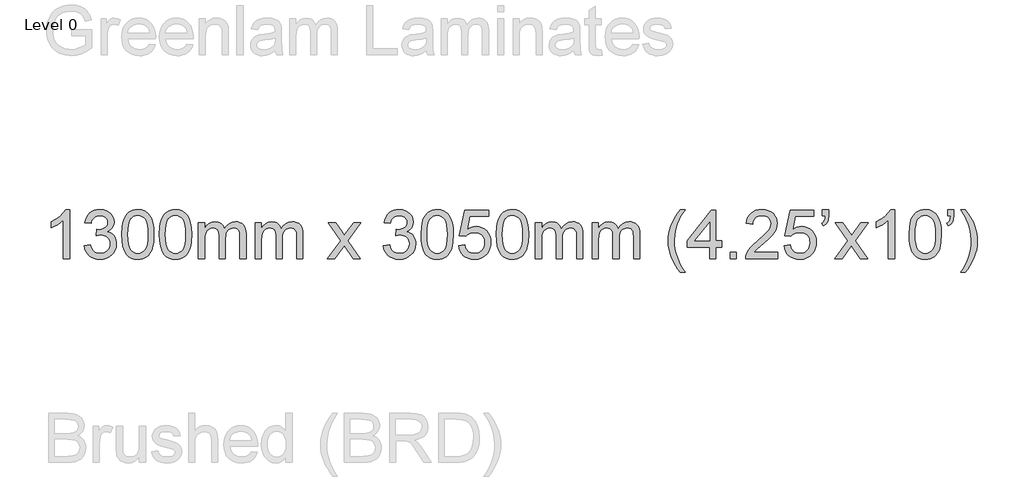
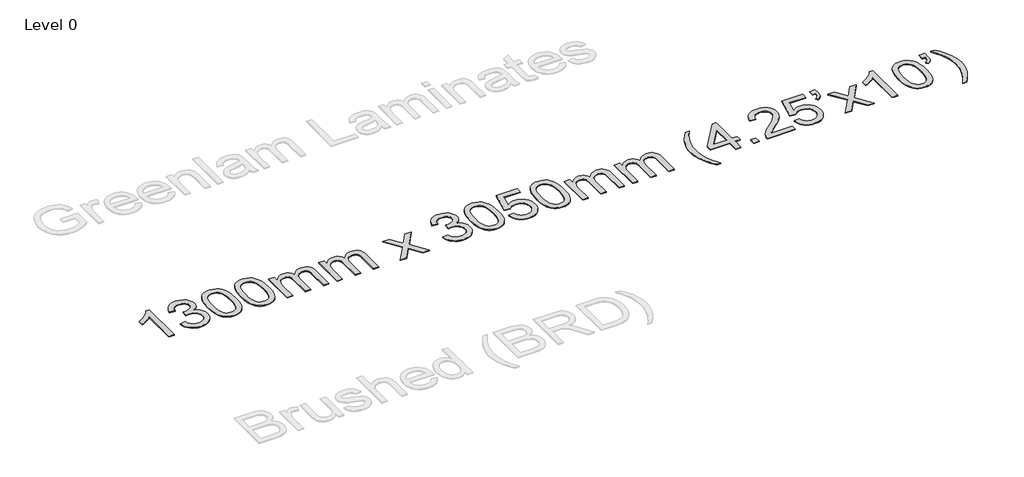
# One storey, part 2 of 3: 1 proxy.
"""IFC4 building model written with IfcOpenShell, lengths in millimetres."""

from ifc_helpers import new_model, si_unit, origin, origin_with_axes, place, context, project, spatial, polyline, outline, extrude, element, save

model = new_model("IFC4")

# Units and contexts
model_context = context("Model", 3, world=origin())
ifc_project = project(units=[si_unit("LENGTHUNIT", "METRE", prefix="MILLI")], contexts=[model_context])

# Site, building, storey
site = spatial("IfcSite", under=ifc_project)
building = spatial("IfcBuilding", under=site)
storey = spatial("IfcBuildingStorey", under=building, Name="Level 0", Elevation=0.0)

# Proxy
placement = place(None, origin())
element("IfcBuildingElementProxy", 1, Name="600mm Arial", ObjectType="600mm Arial", at=placement, inside=storey, context=model_context, shape_type="SweptSolid", body=[
    extrude(outline(polyline([(-10623.1831502, 260.1279527), (-10698.5253828, 260.1279527), (-10698.5253828, 729.8396841), (-10729.9792934, 704.4006441), (-10769.8944899, 678.9983924), (-10811.7962491, 656.796714), (-10849.209848, 640.9593941), (-10849.209848, 712.1813483), (-10790.0360291, 744.3710229), (-10738.7716731, 782.6675386), (-10698.3598359, 823.3920755), (-10671.7435735, 862.8658136), (-10623.1831502, 862.8658136), (-10623.1831502, 260.1279527)])), origin_with_axes(), (0.0, 0.0, 1.0), 10.0),
    extrude(outline(polyline([(-10444.2453477, 420.230197), (-10368.9031151, 429.647976), (-10352.0357256, 382.3015633), (-10340.6635735, 364.3949072), (-10327.3324497, 350.3326179), (-10311.7388516, 339.7100253), (-10293.5792766, 332.1224591), (-10272.8537247, 327.5699194), (-10249.5621959, 326.0524062), (-10222.2653518, 328.1401365), (-10197.9115638, 334.4033275), (-10176.5008316, 344.8419791), (-10158.0331555, 359.4560914), (-10143.1615258, 377.1512153), (-10132.5389332, 396.8329021), (-10126.1653776, 418.5011516), (-10124.0408591, 442.1559639), (-10126.1469835, 464.6841376), (-10132.4653568, 485.1797632), (-10142.9959789, 503.6428409), (-10157.7388499, 520.0733705), (-10175.7282794, 533.5608441), (-10195.9985774, 543.1947539), (-10218.5497437, 548.9750997), (-10243.3817784, 550.9018817), (-10267.1837434, 548.8417425), (-10296.2096329, 542.661325), (-10287.8219234, 618.0035576), (-10275.7553939, 617.1206408), (-10230.6162731, 622.5285061), (-10190.2596183, 638.7521021), (-10173.6497462, 651.0209666), (-10161.7855518, 666.1960989), (-10154.6670352, 684.277499), (-10152.2941963, 705.2651668), (-10154.0140447, 722.3027017), (-10159.1735897, 737.8043293), (-10167.7728313, 751.7700496), (-10179.8117696, 764.1998625), (-10194.5638376, 774.4039893), (-10211.3024684, 781.6926513), (-10250.7394183, 787.523581), (-10271.3959923, 786.052053), (-10290.2499445, 781.637469), (-10307.301275, 774.2798291), (-10322.5499837, 763.9791333), (-10335.6189916, 750.7353814), (-10346.1312196, 734.5485737), (-10354.0866678, 715.4187099), (-10359.485336, 693.3457902), (-10434.8275686, 702.7635693), (-10425.8972332, 738.7332313), (-10412.6442843, 770.4170682), (-10395.068722, 797.8150798), (-10373.1705463, 820.9272661), (-10347.6395358, 839.2753806), (-10319.1654694, 852.3811767), (-10287.748347, 860.2446544), (-10253.3881686, 862.8658136), (-10206.0233617, 857.6970715), (-10162.5213158, 842.1908454), (-10125.8434809, 817.7266928), (-10098.951307, 785.684171), (-10082.4517996, 748.7672128), (-10076.9519637, 709.6797508), (-10082.1758881, 673.2594333), (-10097.8476611, 640.2236301), (-10123.7465535, 612.0806575), (-10159.6518363, 590.3388315), (-10134.5438901, 582.4845509), (-10112.4893645, 571.2825442), (-10093.4882594, 556.7328113), (-10077.5405749, 538.8353522), (-10064.9222225, 518.0316254), (-10055.9091136, 494.7630892), (-10050.5012483, 469.0297436), (-10048.6986265, 440.8315887), (-10052.3038701, 402.6086494), (-10063.1196007, 367.4023425), (-10081.1458185, 335.2126679), (-10106.3825234, 306.0396257), (-10137.1282611, 281.8329904), (-10171.6815775, 264.5425366), (-10210.0424725, 254.1682643), (-10252.2109462, 250.7101736), (-10290.3235209, 253.6624266), (-10325.0515813, 262.5191856), (-10356.3951273, 277.2804507), (-10384.3541589, 297.9462218), (-10407.797439, 323.3024883), (-10425.5937306, 352.1352397), (-10437.7430335, 384.4444759), (-10444.2453477, 420.230197)])), origin_with_axes(), (0.0, 0.0, 1.0), 10.0),
    extrude(outline(polyline([(-9982.774173, 556.6408408), (-9977.2375489, 653.117894), (-9970.3167689, 694.0309704), (-9960.6276769, 730.0604133), (-9948.2116595, 761.5005283), (-9933.1101036, 788.645621), (-9915.3230092, 811.4956915), (-9894.8503761, 830.0507396), (-9871.6232267, 844.4073345), (-9845.5725829, 854.6620451), (-9816.6984448, 860.8148714), (-9785.0008124, 862.8658136), (-9738.5741046, 858.0097712), (-9697.0034391, 843.4416442), (-9662.2385906, 819.7316496), (-9636.2293335, 787.4500046), (-9616.584435, 746.8726205), (-9600.912662, 698.2754089), (-9590.6487543, 636.5632042), (-9587.2274518, 556.6408408), (-9592.7088935, 460.7156105), (-9599.5606956, 419.9404899), (-9609.1532187, 383.9570322), (-9621.472667, 352.5031217), (-9636.505245, 325.3166422), (-9654.2509528, 302.3975939), (-9674.7097902, 283.7459768), (-9697.9645308, 269.2928129), (-9724.0979481, 258.9691244), (-9753.1100419, 252.7749113), (-9785.0008124, 250.7101736), (-9826.4979014, 254.297023), (-9863.2861009, 265.0575714), (-9895.3654109, 282.9918187), (-9922.7358314, 308.0997648), (-9949.0026058, 353.487206), (-9967.7645876, 410.0398657), (-9979.0217766, 477.757744), (-9982.774173, 556.6408408)]), holes=[polyline([(-9907.4319404, 556.7879936), (-9905.2246484, 491.2912029), (-9898.6027725, 438.2748088), (-9887.5663126, 397.7388115), (-9872.1152688, 369.6832108), (-9853.4268635, 350.5947338), (-9832.6783189, 336.9601074), (-9809.8696352, 328.7793315), (-9785.0008124, 326.0524062), (-9760.1319895, 328.7885285), (-9737.3233058, 336.9968956), (-9716.5747613, 350.6775073), (-9697.8863559, 369.8303636), (-9682.4353121, 397.9319495), (-9671.3988523, 438.4587498), (-9664.7769763, 491.4107645), (-9662.5696844, 556.7879936), (-9664.7033999, 620.5511404), (-9671.1045467, 672.6340339), (-9681.7731245, 713.036674), (-9696.7091335, 741.7590608), (-9715.0848392, 761.7810383), (-9736.072507, 776.0824509), (-9759.672137, 784.6632984), (-9785.8837292, 787.523581), (-9810.6237933, 785.0035893), (-9833.0462009, 777.4436143), (-9853.150952, 764.843656), (-9870.9380464, 747.2037143), (-9886.904125, 715.9337447), (-9898.3084669, 673.774468), (-9905.151072, 620.7258843), (-9907.4319404, 556.7879936)])]), origin_with_axes(), (0.0, 0.0, 1.0), 10.0),
    extrude(outline(polyline([(-9521.3029982, 556.6408408), (-9515.7663742, 653.117894), (-9508.8455942, 694.0309704), (-9499.1565021, 730.0604133), (-9486.7404848, 761.5005283), (-9471.6389289, 788.645621), (-9453.8518344, 811.4956915), (-9433.3792014, 830.0507396), (-9410.1520519, 844.4073345), (-9384.1014081, 854.6620451), (-9355.22727, 860.8148714), (-9323.5296376, 862.8658136), (-9277.1029298, 858.0097712), (-9235.5322644, 843.4416442), (-9200.7674158, 819.7316496), (-9174.7581588, 787.4500046), (-9155.1132602, 746.8726205), (-9139.4414872, 698.2754089), (-9129.1775796, 636.5632042), (-9125.756277, 556.6408408), (-9131.2377187, 460.7156105), (-9138.0895209, 419.9404899), (-9147.6820439, 383.9570322), (-9160.0014922, 352.5031217), (-9175.0340703, 325.3166422), (-9192.779778, 302.3975939), (-9213.2386155, 283.7459768), (-9236.4933561, 269.2928129), (-9262.6267733, 258.9691244), (-9291.6388672, 252.7749113), (-9323.5296376, 250.7101736), (-9365.0267267, 254.297023), (-9401.8149262, 265.0575714), (-9433.8942362, 282.9918187), (-9461.2646566, 308.0997648), (-9487.5314311, 353.487206), (-9506.2934128, 410.0398657), (-9517.5506019, 477.757744), (-9521.3029982, 556.6408408)]), holes=[polyline([(-9445.9607656, 556.7879936), (-9443.7534736, 491.2912029), (-9437.1315977, 438.2748088), (-9426.0951379, 397.7388115), (-9410.6440941, 369.6832108), (-9391.9556887, 350.5947338), (-9371.2071442, 336.9601074), (-9348.3984605, 328.7793315), (-9323.5296376, 326.0524062), (-9298.6608147, 328.7885285), (-9275.852131, 336.9968956), (-9255.1035865, 350.6775073), (-9236.4151812, 369.8303636), (-9220.9641374, 397.9319495), (-9209.9276775, 438.4587498), (-9203.3058016, 491.4107645), (-9201.0985096, 556.7879936), (-9203.2322252, 620.5511404), (-9209.6333719, 672.6340339), (-9220.3019498, 713.036674), (-9235.2379588, 741.7590608), (-9253.6136644, 761.7810383), (-9274.6013323, 776.0824509), (-9298.2009622, 784.6632984), (-9324.4125544, 787.523581), (-9349.1526186, 785.0035893), (-9371.5750262, 777.4436143), (-9391.6797772, 764.843656), (-9409.4668717, 747.2037143), (-9425.4329503, 715.9337447), (-9436.8372921, 673.774468), (-9443.6798972, 620.7258843), (-9445.9607656, 556.7879936)])]), origin_with_axes(), (0.0, 0.0, 1.0), 10.0),
    extrude(outline(polyline([(-9040.9962653, 260.1279527), (-9040.9962653, 702.7635693), (-8965.6540327, 702.7635693), (-8965.6540327, 629.9229342), (-8942.9925018, 663.3818017), (-8913.8562478, 689.5933938), (-8879.238552, 706.5343597), (-8840.132696, 712.1813483), (-8798.2309367, 706.4239951), (-8780.397857, 699.2273036), (-8764.6433105, 689.1519354), (-8739.5537585, 661.5056035), (-8723.1462215, 624.6254335), (-8695.6838305, 662.9311462), (-8664.3586787, 690.2923696), (-8629.1707658, 706.7091037), (-8590.120092, 712.1813483), (-8559.958367, 709.9050785), (-8533.4846589, 703.076269), (-8510.6989678, 691.6949197), (-8491.6012937, 675.7610308), (-8476.5043363, 655.0906612), (-8465.7207954, 629.4998699), (-8459.2506708, 598.988657), (-8457.0939626, 563.5570223), (-8457.0939626, 260.1279527), (-8532.4361952, 260.1279527), (-8532.4361952, 531.1834067), (-8534.1836347, 568.7625525), (-8539.4259531, 594.0912279), (-8549.2484024, 611.436864), (-8564.7362344, 625.0668919), (-8584.6570444, 633.8960598), (-8607.7784278, 636.8391157), (-8629.1293791, 634.9537205), (-8648.5949352, 629.2975348), (-8666.175096, 619.8705587), (-8681.8698616, 606.6727921), (-8694.7779211, 589.317959), (-8703.9979636, 567.4197832), (-8709.5299891, 540.9782648), (-8711.3739976, 509.9934038), (-8711.3739976, 260.1279527), (-8786.7162303, 260.1279527), (-8786.7162303, 539.5711162), (-8791.0756319, 582.1718512), (-8796.5248839, 598.8920879), (-8804.1538368, 612.5589041), (-8814.2659932, 623.1814967), (-8827.1648556, 630.7690628), (-8842.8504242, 635.3216025), (-8861.3226989, 636.8391157), (-8890.3485883, 632.7924138), (-8917.0936093, 620.6523079), (-8939.1665291, 600.7131038), (-8954.1761145, 573.269107), (-8962.7845531, 535.1933205), (-8965.6540327, 483.3587473), (-8965.6540327, 260.1279527), (-9040.9962653, 260.1279527)])), origin_with_axes(), (0.0, 0.0, 1.0), 10.0),
    extrude(outline(polyline([(-8344.0806137, 260.1279527), (-8344.0806137, 702.7635693), (-8268.738381, 702.7635693), (-8268.738381, 629.9229342), (-8246.0768501, 663.3818017), (-8216.9405961, 689.5933938), (-8182.3229004, 706.5343597), (-8143.2170443, 712.1813483), (-8101.315285, 706.4239951), (-8083.4822053, 699.2273036), (-8067.7276589, 689.1519354), (-8042.6381068, 661.5056035), (-8026.2305698, 624.6254335), (-7998.7681789, 662.9311462), (-7967.443027, 690.2923696), (-7932.2551142, 706.7091037), (-7893.2044404, 712.1813483), (-7863.0427153, 709.9050785), (-7836.5690072, 703.076269), (-7813.7833161, 691.6949197), (-7794.6856421, 675.7610308), (-7779.5886847, 655.0906612), (-7768.8051437, 629.4998699), (-7762.3350191, 598.988657), (-7760.1783109, 563.5570223), (-7760.1783109, 260.1279527), (-7835.5205435, 260.1279527), (-7835.5205435, 531.1834067), (-7837.267983, 568.7625525), (-7842.5103014, 594.0912279), (-7852.3327507, 611.436864), (-7867.8205827, 625.0668919), (-7887.7413927, 633.8960598), (-7910.8627761, 636.8391157), (-7932.2137274, 634.9537205), (-7951.6792835, 629.2975348), (-7969.2594443, 619.8705587), (-7984.95421, 606.6727921), (-7997.8622695, 589.317959), (-8007.082312, 567.4197832), (-8012.6143375, 540.9782648), (-8014.458346, 509.9934038), (-8014.458346, 260.1279527), (-8089.8005786, 260.1279527), (-8089.8005786, 539.5711162), (-8094.1599802, 582.1718512), (-8099.6092323, 598.8920879), (-8107.2381852, 612.5589041), (-8117.3503415, 623.1814967), (-8130.249204, 630.7690628), (-8145.9347725, 635.3216025), (-8164.4070472, 636.8391157), (-8193.4329366, 632.7924138), (-8220.1779577, 620.6523079), (-8242.2508774, 600.7131038), (-8257.2604628, 573.269107), (-8265.8689015, 535.1933205), (-8268.738381, 483.3587473), (-8268.738381, 260.1279527), (-8344.0806137, 260.1279527)])), origin_with_axes(), (0.0, 0.0, 1.0), 10.0),
    extrude(outline(polyline([(-7458.8093805, 260.1279527), (-7297.8242194, 482.6229834), (-7449.3916014, 702.7635693), (-7358.7454778, 702.7635693), (-7285.6105371, 596.8135547), (-7251.471088, 546.7816033), (-7221.8933756, 587.6900812), (-7138.6048919, 702.7635693), (-7047.9587682, 702.7635693), (-7207.1780958, 482.6229834), (-7053.8448802, 260.1279527), (-7144.4910038, 260.1279527), (-7236.7558082, 393.8898461), (-7253.67838, 418.3172106), (-7368.1632569, 260.1279527), (-7458.8093805, 260.1279527)])), origin_with_axes(), (0.0, 0.0, 1.0), 10.0),
    extrude(outline(polyline([(-6771.3115079, 420.230197), (-6695.9692753, 429.647976), (-6679.1018858, 382.3015633), (-6667.7297336, 364.3949072), (-6654.3986098, 350.3326179), (-6638.8050117, 339.7100253), (-6620.6454368, 332.1224591), (-6599.9198848, 327.5699194), (-6576.628356, 326.0524062), (-6549.331512, 328.1401365), (-6524.9777239, 334.4033275), (-6503.5669918, 344.8419791), (-6485.0993156, 359.4560914), (-6470.227686, 377.1512153), (-6459.6050934, 396.8329021), (-6453.2315378, 418.5011516), (-6451.1070193, 442.1559639), (-6453.2131437, 464.6841376), (-6459.531517, 485.1797632), (-6470.0621391, 503.6428409), (-6484.80501, 520.0733705), (-6502.7944396, 533.5608441), (-6523.0647375, 543.1947539), (-6545.6159038, 548.9750997), (-6570.4479385, 550.9018817), (-6594.2499036, 548.8417425), (-6623.275793, 542.661325), (-6614.8880835, 618.0035576), (-6602.8215541, 617.1206408), (-6557.6824333, 622.5285061), (-6517.3257784, 638.7521021), (-6500.7159063, 651.0209666), (-6488.851712, 666.1960989), (-6481.7331954, 684.277499), (-6479.3603565, 705.2651668), (-6481.0802048, 722.3027017), (-6486.2397498, 737.8043293), (-6494.8389915, 751.7700496), (-6506.8779297, 764.1998625), (-6521.6299977, 774.4039893), (-6538.3686285, 781.6926513), (-6577.8055784, 787.523581), (-6598.4621524, 786.052053), (-6617.3161047, 781.637469), (-6634.3674352, 774.2798291), (-6649.6161439, 763.9791333), (-6662.6851517, 750.7353814), (-6673.1973798, 734.5485737), (-6681.1528279, 715.4187099), (-6686.5514962, 693.3457902), (-6761.8937288, 702.7635693), (-6752.9633934, 738.7332313), (-6739.7104445, 770.4170682), (-6722.1348822, 797.8150798), (-6700.2367064, 820.9272661), (-6674.7056959, 839.2753806), (-6646.2316295, 852.3811767), (-6614.8145071, 860.2446544), (-6580.4543288, 862.8658136), (-6533.0895219, 857.6970715), (-6489.587476, 842.1908454), (-6452.9096411, 817.7266928), (-6426.0174672, 785.684171), (-6409.5179597, 748.7672128), (-6404.0181239, 709.6797508), (-6409.2420482, 673.2594333), (-6424.9138212, 640.2236301), (-6450.8127137, 612.0806575), (-6486.7179964, 590.3388315), (-6461.6100502, 582.4845509), (-6439.5555246, 571.2825442), (-6420.5544196, 556.7328113), (-6404.6067351, 538.8353522), (-6391.9883826, 518.0316254), (-6382.9752738, 494.7630892), (-6377.5674084, 469.0297436), (-6375.7647867, 440.8315887), (-6379.3700302, 402.6086494), (-6390.1857609, 367.4023425), (-6408.2119786, 335.2126679), (-6433.4486835, 306.0396257), (-6464.1944213, 281.8329904), (-6498.7477376, 264.5425366), (-6537.1086327, 254.1682643), (-6579.2771064, 250.7101736), (-6617.3896811, 253.6624266), (-6652.1177414, 262.5191856), (-6683.4612874, 277.2804507), (-6711.4203191, 297.9462218), (-6734.8635992, 323.3024883), (-6752.6598907, 352.1352397), (-6764.8091936, 384.4444759), (-6771.3115079, 420.230197)])), origin_with_axes(), (0.0, 0.0, 1.0), 10.0),
    extrude(outline(polyline([(-6309.8403331, 556.6408408), (-6304.3037091, 653.117894), (-6297.3829291, 694.0309704), (-6287.693837, 730.0604133), (-6275.2778197, 761.5005283), (-6260.1762638, 788.645621), (-6242.3891693, 811.4956915), (-6221.9165363, 830.0507396), (-6198.6893868, 844.4073345), (-6172.638743, 854.6620451), (-6143.7646049, 860.8148714), (-6112.0669725, 862.8658136), (-6065.6402647, 858.0097712), (-6024.0695993, 843.4416442), (-5989.3047507, 819.7316496), (-5963.2954937, 787.4500046), (-5943.6505951, 746.8726205), (-5927.9788221, 698.2754089), (-5917.7149145, 636.5632042), (-5914.2936119, 556.6408408), (-5919.7750536, 460.7156105), (-5926.6268558, 419.9404899), (-5936.2193788, 383.9570322), (-5948.5388271, 352.5031217), (-5963.5714052, 325.3166422), (-5981.3171129, 302.3975939), (-6001.7759504, 283.7459768), (-6025.030691, 269.2928129), (-6051.1641082, 258.9691244), (-6080.1762021, 252.7749113), (-6112.0669725, 250.7101736), (-6153.5640616, 254.297023), (-6190.3522611, 265.0575714), (-6222.4315711, 282.9918187), (-6249.8019915, 308.0997648), (-6276.068766, 353.487206), (-6294.8307477, 410.0398657), (-6306.0879368, 477.757744), (-6309.8403331, 556.6408408)]), holes=[polyline([(-6234.4981005, 556.7879936), (-6232.2908085, 491.2912029), (-6225.6689326, 438.2748088), (-6214.6324728, 397.7388115), (-6199.181429, 369.6832108), (-6180.4930236, 350.5947338), (-6159.7444791, 336.9601074), (-6136.9357954, 328.7793315), (-6112.0669725, 326.0524062), (-6087.1981496, 328.7885285), (-6064.3894659, 336.9968956), (-6043.6409214, 350.6775073), (-6024.9525161, 369.8303636), (-6009.5014723, 397.9319495), (-5998.4650124, 438.4587498), (-5991.8431365, 491.4107645), (-5989.6358445, 556.7879936), (-5991.7695601, 620.5511404), (-5998.1707068, 672.6340339), (-6008.8392847, 713.036674), (-6023.7752937, 741.7590608), (-6042.1509993, 761.7810383), (-6063.1386672, 776.0824509), (-6086.7382972, 784.6632984), (-6112.9498893, 787.523581), (-6137.6899535, 785.0035893), (-6160.1123611, 777.4436143), (-6180.2171121, 764.843656), (-6198.0042066, 747.2037143), (-6213.9702852, 715.9337447), (-6225.374627, 673.774468), (-6232.2172321, 620.7258843), (-6234.4981005, 556.7879936)])]), origin_with_axes(), (0.0, 0.0, 1.0), 10.0),
    extrude(outline(polyline([(-5848.3691584, 420.230197), (-5773.0269258, 429.647976), (-5767.3983312, 405.4275452), (-5759.1945627, 384.4168847), (-5748.4156203, 366.6159947), (-5735.0615039, 352.0248751), (-5719.1598046, 340.6619199), (-5700.7381137, 332.5455234), (-5679.7964311, 327.6756855), (-5656.3347569, 326.0524062), (-5627.6399613, 328.310282), (-5602.32968, 335.0839092), (-5580.4039131, 346.3732879), (-5561.8626605, 362.1784181), (-5547.1197896, 381.7175506), (-5536.5891675, 404.2089361), (-5530.2707942, 429.6525746), (-5528.1646698, 458.0484661), (-5530.137437, 484.8854576), (-5536.0557386, 508.742605), (-5545.9195746, 529.6199082), (-5559.728945, 547.5173673), (-5577.529835, 561.8739622), (-5599.3682299, 572.1286728), (-5625.2441298, 578.2814991), (-5655.1575345, 580.3324413), (-5691.7066107, 577.0582915), (-5721.3027172, 567.2358422), (-5744.9391354, 552.1894686), (-5763.6091467, 533.2435459), (-5838.9513793, 542.661325), (-5773.0269258, 853.4480345), (-5481.0757744, 853.4480345), (-5481.0757744, 778.1058019), (-5712.1056674, 778.1058019), (-5744.3321301, 612.1174457), (-5717.7434589, 631.173733), (-5690.5109942, 644.7853668), (-5662.6347361, 652.9523471), (-5634.1146844, 655.6746739), (-5597.4230539, 652.2993566), (-5563.7204646, 642.1734047), (-5533.0069165, 625.2968181), (-5505.2824097, 601.669597), (-5482.3311717, 572.7356781), (-5465.9374303, 539.9389982), (-5456.1011854, 503.2795574), (-5452.8224372, 462.7573556), (-5455.7746902, 423.7250759), (-5464.6314492, 387.415123), (-5479.3927143, 353.8274968), (-5500.0584853, 322.9621974), (-5531.3652431, 291.351937), (-5567.8959253, 268.7731796), (-5609.6505317, 255.2259251), (-5656.6290625, 250.7101736), (-5695.5095909, 253.6118428), (-5730.6285258, 262.3168505), (-5761.9858674, 276.8251967), (-5789.5816155, 297.1368814), (-5812.5420506, 322.240229), (-5829.9934527, 351.1235642), (-5841.935822, 383.7868868), (-5848.3691584, 420.230197)])), origin_with_axes(), (0.0, 0.0, 1.0), 10.0),
    extrude(outline(polyline([(-5386.8979836, 556.6408408), (-5381.3613596, 653.117894), (-5374.4405796, 694.0309704), (-5364.7514875, 730.0604133), (-5352.3354702, 761.5005283), (-5337.2339143, 788.645621), (-5319.4468198, 811.4956915), (-5298.9741868, 830.0507396), (-5275.7470373, 844.4073345), (-5249.6963935, 854.6620451), (-5220.8222554, 860.8148714), (-5189.124623, 862.8658136), (-5142.6979152, 858.0097712), (-5101.1272498, 843.4416442), (-5066.3624012, 819.7316496), (-5040.3531442, 787.4500046), (-5020.7082456, 746.8726205), (-5005.0364726, 698.2754089), (-4994.772565, 636.5632042), (-4991.3512624, 556.6408408), (-4996.8327041, 460.7156105), (-5003.6845063, 419.9404899), (-5013.2770293, 383.9570322), (-5025.5964776, 352.5031217), (-5040.6290557, 325.3166422), (-5058.3747634, 302.3975939), (-5078.8336009, 283.7459768), (-5102.0883415, 269.2928129), (-5128.2217587, 258.9691244), (-5157.2338526, 252.7749113), (-5189.124623, 250.7101736), (-5230.6217121, 254.297023), (-5267.4099116, 265.0575714), (-5299.4892216, 282.9918187), (-5326.859642, 308.0997648), (-5353.1264165, 353.487206), (-5371.8883982, 410.0398657), (-5383.1455873, 477.757744), (-5386.8979836, 556.6408408)]), holes=[polyline([(-5311.555751, 556.7879936), (-5309.348459, 491.2912029), (-5302.7265831, 438.2748088), (-5291.6901233, 397.7388115), (-5276.2390795, 369.6832108), (-5257.5506741, 350.5947338), (-5236.8021296, 336.9601074), (-5213.9934459, 328.7793315), (-5189.124623, 326.0524062), (-5164.2558001, 328.7885285), (-5141.4471164, 336.9968956), (-5120.6985719, 350.6775073), (-5102.0101666, 369.8303636), (-5086.5591228, 397.9319495), (-5075.5226629, 438.4587498), (-5068.900787, 491.4107645), (-5066.693495, 556.7879936), (-5068.8272106, 620.5511404), (-5075.2283573, 672.6340339), (-5085.8969352, 713.036674), (-5100.8329442, 741.7590608), (-5119.2086498, 761.7810383), (-5140.1963177, 776.0824509), (-5163.7959477, 784.6632984), (-5190.0075398, 787.523581), (-5214.747604, 785.0035893), (-5237.1700116, 777.4436143), (-5257.2747626, 764.843656), (-5275.0618571, 747.2037143), (-5291.0279357, 715.9337447), (-5302.4322775, 673.774468), (-5309.2748826, 620.7258843), (-5311.555751, 556.7879936)])]), origin_with_axes(), (0.0, 0.0, 1.0), 10.0),
    extrude(outline(polyline([(-4906.5912507, 260.1279527), (-4906.5912507, 702.7635693), (-4831.2490181, 702.7635693), (-4831.2490181, 629.9229342), (-4808.5874872, 663.3818017), (-4779.4512332, 689.5933938), (-4744.8335374, 706.5343597), (-4705.7276814, 712.1813483), (-4663.8259221, 706.4239951), (-4645.9928424, 699.2273036), (-4630.2382959, 689.1519354), (-4605.1487439, 661.5056035), (-4588.7412069, 624.6254335), (-4561.278816, 662.9311462), (-4529.9536641, 690.2923696), (-4494.7657512, 706.7091037), (-4455.7150774, 712.1813483), (-4425.5533524, 709.9050785), (-4399.0796443, 703.076269), (-4376.2939532, 691.6949197), (-4357.1962791, 675.7610308), (-4342.0993217, 655.0906612), (-4331.3157808, 629.4998699), (-4324.8456562, 598.988657), (-4322.688948, 563.5570223), (-4322.688948, 260.1279527), (-4398.0311806, 260.1279527), (-4398.0311806, 531.1834067), (-4399.7786201, 568.7625525), (-4405.0209385, 594.0912279), (-4414.8433878, 611.436864), (-4430.3312198, 625.0668919), (-4450.2520298, 633.8960598), (-4473.3734132, 636.8391157), (-4494.7243645, 634.9537205), (-4514.1899206, 629.2975348), (-4531.7700814, 619.8705587), (-4547.464847, 606.6727921), (-4560.3729065, 589.317959), (-4569.592949, 567.4197832), (-4575.1249745, 540.9782648), (-4576.968983, 509.9934038), (-4576.968983, 260.1279527), (-4652.3112157, 260.1279527), (-4652.3112157, 539.5711162), (-4656.6706173, 582.1718512), (-4662.1198694, 598.8920879), (-4669.7488222, 612.5589041), (-4679.8609786, 623.1814967), (-4692.759841, 630.7690628), (-4708.4454096, 635.3216025), (-4726.9176843, 636.8391157), (-4755.9435737, 632.7924138), (-4782.6885947, 620.6523079), (-4804.7615145, 600.7131038), (-4819.7710999, 573.269107), (-4828.3795385, 535.1933205), (-4831.2490181, 483.3587473), (-4831.2490181, 260.1279527), (-4906.5912507, 260.1279527)])), origin_with_axes(), (0.0, 0.0, 1.0), 10.0),
    extrude(outline(polyline([(-4209.6755991, 260.1279527), (-4209.6755991, 702.7635693), (-4134.3333664, 702.7635693), (-4134.3333664, 629.9229342), (-4111.6718355, 663.3818017), (-4082.5355815, 689.5933938), (-4047.9178858, 706.5343597), (-4008.8120297, 712.1813483), (-3966.9102704, 706.4239951), (-3949.0771907, 699.2273036), (-3933.3226443, 689.1519354), (-3908.2330922, 661.5056035), (-3891.8255552, 624.6254335), (-3864.3631643, 662.9311462), (-3833.0380124, 690.2923696), (-3797.8500996, 706.7091037), (-3758.7994258, 712.1813483), (-3728.6377007, 709.9050785), (-3702.1639926, 703.076269), (-3679.3783015, 691.6949197), (-3660.2806275, 675.7610308), (-3645.1836701, 655.0906612), (-3634.4001291, 629.4998699), (-3627.9300045, 598.988657), (-3625.7732963, 563.5570223), (-3625.7732963, 260.1279527), (-3701.1155289, 260.1279527), (-3701.1155289, 531.1834067), (-3702.8629684, 568.7625525), (-3708.1052868, 594.0912279), (-3717.9277361, 611.436864), (-3733.4155681, 625.0668919), (-3753.3363781, 633.8960598), (-3776.4577615, 636.8391157), (-3797.8087128, 634.9537205), (-3817.2742689, 629.2975348), (-3834.8544297, 619.8705587), (-3850.5491954, 606.6727921), (-3863.4572549, 589.317959), (-3872.6772974, 567.4197832), (-3878.2093229, 540.9782648), (-3880.0533314, 509.9934038), (-3880.0533314, 260.1279527), (-3955.395564, 260.1279527), (-3955.395564, 539.5711162), (-3959.7549656, 582.1718512), (-3965.2042177, 598.8920879), (-3972.8331706, 612.5589041), (-3982.9453269, 623.1814967), (-3995.8441894, 630.7690628), (-4011.5297579, 635.3216025), (-4030.0020326, 636.8391157), (-4059.027922, 632.7924138), (-4085.7729431, 620.6523079), (-4107.8458628, 600.7131038), (-4122.8554482, 573.269107), (-4131.4638869, 535.1933205), (-4134.3333664, 483.3587473), (-4134.3333664, 260.1279527), (-4209.6755991, 260.1279527)])), origin_with_axes(), (0.0, 0.0, 1.0), 10.0),
    extrude(outline(polyline([(-3126.6310053, 90.6079293), (-3157.0456492, 129.9621057), (-3185.0138779, 172.5352496), (-3210.5356913, 218.327361), (-3233.6110895, 267.3384398), (-3252.7317562, 318.4188548), (-3266.3893752, 370.4189748), (-3274.5839467, 423.3387998), (-3277.3154705, 477.1783298), (-3275.2737254, 524.4971515), (-3269.1484902, 570.8042976), (-3258.9397648, 616.0997683), (-3244.6475493, 660.3835634), (-3222.9241175, 711.1696729), (-3196.0135496, 761.8454177), (-3163.9158455, 812.4107979), (-3126.6310053, 862.8658136), (-3070.1243308, 862.8658136), (-3114.4541112, 791.2391891), (-3140.6105211, 743.5248943), (-3164.6700036, 686.8710671), (-3182.9905269, 627.862795), (-3197.2275601, 552.4837742), (-3201.9732379, 476.7368714), (-3199.9130987, 428.438564), (-3193.7326812, 380.1494536), (-3183.4319853, 331.8695403), (-3169.0110111, 283.598824), (-3150.4697585, 235.3373047), (-3127.8082276, 187.0849825), (-3101.0264184, 138.8418574), (-3070.1243308, 90.6079293), (-3126.6310053, 90.6079293)])), origin_with_axes(), (0.0, 0.0, 1.0), 10.0),
    extrude(outline(polyline([(-2768.7554004, 260.1279527), (-2768.7554004, 401.3946388), (-3041.8709936, 401.3946388), (-3041.8709936, 476.7368714), (-2749.9198422, 853.4480345), (-2693.4131677, 853.4480345), (-2693.4131677, 476.7368714), (-2618.0709351, 476.7368714), (-2618.0709351, 401.3946388), (-2693.4131677, 401.3946388), (-2693.4131677, 260.1279527), (-2768.7554004, 260.1279527)]), holes=[polyline([(-2768.7554004, 476.7368714), (-2768.7554004, 709.532598), (-2949.1647308, 476.7368714), (-2768.7554004, 476.7368714)])]), origin_with_axes(), (0.0, 0.0, 1.0), 10.0),
    extrude(outline(polyline([(-2514.4753653, 260.1279527), (-2514.4753653, 335.4701853), (-2439.1331327, 335.4701853), (-2439.1331327, 260.1279527), (-2514.4753653, 260.1279527)])), origin_with_axes(), (0.0, 0.0, 1.0), 10.0),
    extrude(outline(polyline([(-1930.5730625, 335.4701853), (-1930.5730625, 260.1279527), (-2326.1197838, 260.1279527), (-2324.4643148, 286.6522445), (-2318.0263799, 312.0728904), (-2299.4483391, 352.6686686), (-2272.2618597, 392.0504361), (-2232.9352744, 433.2716137), (-2177.9369161, 479.3856218), (-2096.6349952, 551.6008574), (-2047.8538426, 604.9069586), (-2033.6260064, 626.6855727), (-2023.4632663, 648.1698812), (-2017.3656223, 669.3598841), (-2015.3330742, 690.2555814), (-2017.2506591, 709.9142755), (-2023.0034138, 727.98188), (-2032.5913383, 744.4583949), (-2046.0144326, 759.3438201), (-2062.5277357, 771.6724655), (-2081.3862865, 780.4786407), (-2102.590085, 785.7623459), (-2126.1391312, 787.523581), (-2150.9481732, 785.8037326), (-2173.1360561, 780.6441876), (-2192.7027797, 772.044946), (-2209.6483441, 760.0060077), (-2223.3565469, 744.932043), (-2233.2111859, 727.2277219), (-2239.2122609, 706.8930447), (-2241.3597721, 683.9280111), (-2316.7020047, 693.3457902), (-2310.222683, 732.2401141), (-2298.4366636, 766.2232134), (-2281.3439464, 795.2950881), (-2258.9445314, 819.4557381), (-2231.7534535, 838.4476461), (-2200.2857473, 852.0132947), (-2164.5414129, 860.1526839), (-2124.5204504, 862.8658136), (-2084.1408029, 859.8491812), (-2048.2033305, 850.7992841), (-2016.7080332, 835.7161223), (-1989.654911, 814.5996958), (-1967.9268806, 789.013503), (-1952.406859, 760.5210425), (-1943.094846, 729.1223142), (-1939.9908416, 694.8173182), (-1943.3385678, 658.7832767), (-1953.3817462, 623.3746347), (-1971.2056289, 587.3589874), (-1997.8954677, 549.5039301), (-2040.4410204, 504.309627), (-2105.832045, 446.2762422), (-2192.5050431, 373.8034892), (-2226.4973395, 335.4701853), (-1930.5730625, 335.4701853)])), origin_with_axes(), (0.0, 0.0, 1.0), 10.0),
    extrude(outline(polyline([(-1855.2308299, 420.230197), (-1779.8885973, 429.647976), (-1774.2600028, 405.4275452), (-1766.0562343, 384.4168847), (-1755.2772918, 366.6159947), (-1741.9231754, 352.0248751), (-1726.0214762, 340.6619199), (-1707.5997853, 332.5455234), (-1686.6581027, 327.6756855), (-1663.1964284, 326.0524062), (-1634.5016328, 328.310282), (-1609.1913516, 335.0839092), (-1587.2655846, 346.3732879), (-1568.7243321, 362.1784181), (-1553.9814611, 381.7175506), (-1543.450839, 404.2089361), (-1537.1324657, 429.6525746), (-1535.0263413, 458.0484661), (-1536.9991085, 484.8854576), (-1542.9174101, 508.742605), (-1552.7812461, 529.6199082), (-1566.5906165, 547.5173673), (-1584.3915066, 561.8739622), (-1606.2299015, 572.1286728), (-1632.1058013, 578.2814991), (-1662.0192061, 580.3324413), (-1698.5682823, 577.0582915), (-1728.1643888, 567.2358422), (-1751.800807, 552.1894686), (-1770.4708182, 533.2435459), (-1845.8130509, 542.661325), (-1779.8885973, 853.4480345), (-1487.9374459, 853.4480345), (-1487.9374459, 778.1058019), (-1718.9673389, 778.1058019), (-1751.1938017, 612.1174457), (-1724.6051305, 631.173733), (-1697.3726658, 644.7853668), (-1669.4964076, 652.9523471), (-1640.9763559, 655.6746739), (-1604.2847254, 652.2993566), (-1570.5821362, 642.1734047), (-1539.8685881, 625.2968181), (-1512.1440812, 601.669597), (-1489.1928433, 572.7356781), (-1472.7991018, 539.9389982), (-1462.962857, 503.2795574), (-1459.6841087, 462.7573556), (-1462.6363617, 423.7250759), (-1471.4931208, 387.415123), (-1486.2543858, 353.8274968), (-1506.9201569, 322.9621974), (-1538.2269147, 291.351937), (-1574.7575968, 268.7731796), (-1616.5122033, 255.2259251), (-1663.490734, 250.7101736), (-1702.3712624, 253.6118428), (-1737.4901974, 262.3168505), (-1768.8475389, 276.8251967), (-1796.4432871, 297.1368814), (-1819.4037221, 322.240229), (-1836.8551243, 351.1235642), (-1848.7974935, 383.7868868), (-1855.2308299, 420.230197)])), origin_with_axes(), (0.0, 0.0, 1.0), 10.0),
    extrude(outline(polyline([(-1384.3418761, 787.523581), (-1384.3418761, 862.8658136), (-1308.9996435, 862.8658136), (-1308.9996435, 787.523581), (-1312.0898523, 742.7155539), (-1321.3604785, 712.4756539), (-1343.3598218, 684.8845043), (-1374.924097, 665.092453), (-1393.7596552, 694.0815542), (-1374.004392, 707.3437001), (-1360.0616644, 726.5287462), (-1351.4532257, 752.8507029), (-1347.7008294, 787.523581), (-1384.3418761, 787.523581)])), origin_with_axes(), (0.0, 0.0, 1.0), 10.0),
    extrude(outline(polyline([(-1233.6574109, 260.1279527), (-1072.6722498, 482.6229834), (-1224.2396318, 702.7635693), (-1133.5935082, 702.7635693), (-1060.4585675, 596.8135547), (-1026.3191184, 546.7816033), (-996.741406, 587.6900812), (-913.4529223, 702.7635693), (-822.8067987, 702.7635693), (-982.0261262, 482.6229834), (-828.6929106, 260.1279527), (-919.3390342, 260.1279527), (-1011.6038386, 393.8898461), (-1028.5264104, 418.3172106), (-1143.0112873, 260.1279527), (-1233.6574109, 260.1279527)])), origin_with_axes(), (0.0, 0.0, 1.0), 10.0),
    extrude(outline(polyline([(-499.0706429, 260.1279527), (-574.4128755, 260.1279527), (-574.4128755, 729.8396841), (-605.8667861, 704.4006441), (-645.7819826, 678.9983924), (-687.6837418, 656.796714), (-725.0973407, 640.9593941), (-725.0973407, 712.1813483), (-665.9235218, 744.3710229), (-614.6591658, 782.6675386), (-574.2473286, 823.3920755), (-547.6310663, 862.8658136), (-499.0706429, 862.8658136), (-499.0706429, 260.1279527)])), origin_with_axes(), (0.0, 0.0, 1.0), 10.0),
    extrude(outline(polyline([(-320.1328405, 556.6408408), (-314.5962164, 653.117894), (-307.6754364, 694.0309704), (-297.9863443, 730.0604133), (-285.570327, 761.5005283), (-270.4687711, 788.645621), (-252.6816766, 811.4956915), (-232.2090436, 830.0507396), (-208.9818941, 844.4073345), (-182.9312504, 854.6620451), (-154.0571123, 860.8148714), (-122.3594798, 862.8658136), (-75.9327721, 858.0097712), (-34.3621066, 843.4416442), (0.4027419, 819.7316496), (26.411999, 787.4500046), (46.0568975, 746.8726205), (61.7286705, 698.2754089), (71.9925782, 636.5632042), (75.4138808, 556.6408408), (69.932439, 460.7156105), (63.0806369, 419.9404899), (53.4881138, 383.9570322), (41.1686655, 352.5031217), (26.1360875, 325.3166422), (8.3903798, 302.3975939), (-12.0684577, 283.7459768), (-35.3231983, 269.2928129), (-61.4566155, 258.9691244), (-90.4687094, 252.7749113), (-122.3594798, 250.7101736), (-163.8565689, 254.297023), (-200.6447684, 265.0575714), (-232.7240784, 282.9918187), (-260.0944988, 308.0997648), (-286.3612733, 353.487206), (-305.1232551, 410.0398657), (-316.3804441, 477.757744), (-320.1328405, 556.6408408)]), holes=[polyline([(-244.7906078, 556.7879936), (-242.5833159, 491.2912029), (-235.96144, 438.2748088), (-224.9249801, 397.7388115), (-209.4739363, 369.6832108), (-190.785531, 350.5947338), (-170.0369864, 336.9601074), (-147.2283027, 328.7793315), (-122.3594798, 326.0524062), (-97.490657, 328.7885285), (-74.6819733, 336.9968956), (-53.9334287, 350.6775073), (-35.2450234, 369.8303636), (-19.7939796, 397.9319495), (-8.7575197, 438.4587498), (-2.1356438, 491.4107645), (0.0716481, 556.7879936), (-2.0620674, 620.5511404), (-8.4632141, 672.6340339), (-19.131792, 713.036674), (-34.067801, 741.7590608), (-52.4435067, 761.7810383), (-73.4311745, 776.0824509), (-97.0308045, 784.6632984), (-123.2423966, 787.523581), (-147.9824608, 785.0035893), (-170.4048684, 777.4436143), (-190.5096195, 764.843656), (-208.2967139, 747.2037143), (-224.2627925, 715.9337447), (-235.6671344, 673.774468), (-242.5097395, 620.7258843), (-244.7906078, 556.7879936)])]), origin_with_axes(), (0.0, 0.0, 1.0), 10.0),
    extrude(outline(polyline([(150.7561134, 787.523581), (150.7561134, 862.8658136), (226.098346, 862.8658136), (226.098346, 787.523581), (223.0081372, 742.7155539), (213.7375109, 712.4756539), (191.7381676, 684.8845043), (160.1738924, 665.092453), (141.3383343, 694.0815542), (161.0935974, 707.3437001), (175.0363251, 726.5287462), (183.6447637, 752.8507029), (187.3971601, 787.523581), (150.7561134, 787.523581)])), origin_with_axes(), (0.0, 0.0, 1.0), 10.0),
    extrude(outline(polyline([(367.3650321, 90.6079293), (310.8583577, 90.6079293), (341.7604453, 138.8418574), (368.5422545, 187.0849825), (391.2037854, 235.3373047), (409.745038, 283.598824), (424.1660122, 331.8695403), (434.4667081, 380.1494536), (440.6471256, 428.438564), (442.7072647, 476.7368714), (437.961587, 551.9319512), (423.7245538, 626.5384199), (405.7351242, 685.6570565), (381.7860063, 742.3476719), (355.5192319, 790.5770015), (310.8583577, 862.8658136), (367.3650321, 862.8658136), (404.6498723, 812.4107979), (436.7475764, 761.8454177), (463.6581444, 711.1696729), (485.3815762, 660.3835634), (499.6737917, 616.0997683), (509.8825171, 570.8042976), (516.0077523, 524.4971515), (518.0494974, 477.1783298), (515.304178, 423.3387998), (507.0682198, 370.4189748), (493.3416229, 318.4188548), (474.1243871, 267.3384398), (450.9800111, 218.327361), (425.4719933, 172.5352496), (397.6003336, 129.9621057), (367.3650321, 90.6079293)])), origin_with_axes(), (0.0, 0.0, 1.0), 10.0),
])

save(model, "model.ifc")
